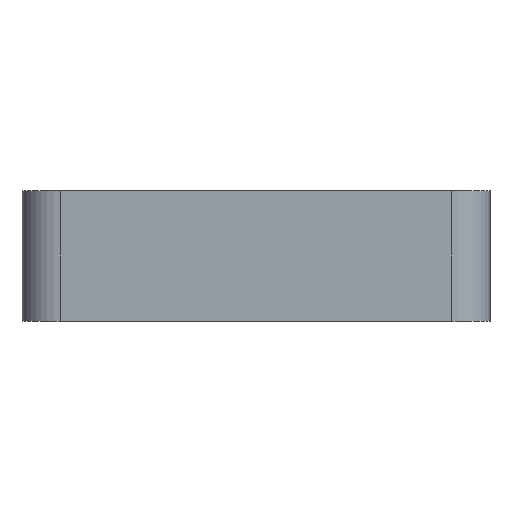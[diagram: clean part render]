
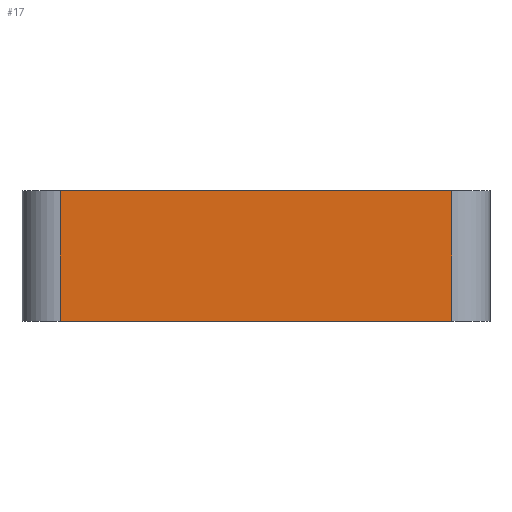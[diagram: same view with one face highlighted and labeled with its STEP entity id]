
A CAD part, left-side view. The second image highlights one B-rep face of the part: STEP entity #17.
In plain terms, the highlighted planar face has unit normal (-1, 0, 0).
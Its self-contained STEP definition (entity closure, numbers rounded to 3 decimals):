
#17 = ADVANCED_FACE('',(#18),#32,.F.);
#18 = FACE_BOUND('',#19,.F.);
#19 = EDGE_LOOP('',(#20,#55,#83,#111));
#20 = ORIENTED_EDGE('',*,*,#21,.F.);
#21 = EDGE_CURVE('',#22,#24,#26,.T.);
#22 = VERTEX_POINT('',#23);
#23 = CARTESIAN_POINT('',(-37.105,-40.95,27.4));
#24 = VERTEX_POINT('',#25);
#25 = CARTESIAN_POINT('',(-37.105,40.95,27.4));
#26 = SURFACE_CURVE('',#27,(#31,#43),.PCURVE_S1.);
#27 = LINE('',#28,#29);
#28 = CARTESIAN_POINT('',(-37.105,-48.95,27.4));
#29 = VECTOR('',#30,1.);
#30 = DIRECTION('',(0.,1.,0.));
#31 = PCURVE('',#32,#37);
#32 = PLANE('',#33);
#33 = AXIS2_PLACEMENT_3D('',#34,#35,#36);
#34 = CARTESIAN_POINT('',(-37.105,-48.95,0.));
#35 = DIRECTION('',(1.,0.,0.));
#36 = DIRECTION('',(0.,0.,1.));
#37 = DEFINITIONAL_REPRESENTATION('',(#38),#42);
#38 = LINE('',#39,#40);
#39 = CARTESIAN_POINT('',(27.4,0.));
#40 = VECTOR('',#41,1.);
#41 = DIRECTION('',(0.,-1.));
#42 = ( GEOMETRIC_REPRESENTATION_CONTEXT(2) 
PARAMETRIC_REPRESENTATION_CONTEXT() REPRESENTATION_CONTEXT('2D SPACE',''
  ) );
#43 = PCURVE('',#44,#49);
#44 = PLANE('',#45);
#45 = AXIS2_PLACEMENT_3D('',#46,#47,#48);
#46 = CARTESIAN_POINT('',(-37.105,-48.95,27.4));
#47 = DIRECTION('',(0.,0.,1.));
#48 = DIRECTION('',(1.,0.,0.));
#49 = DEFINITIONAL_REPRESENTATION('',(#50),#54);
#50 = LINE('',#51,#52);
#51 = CARTESIAN_POINT('',(0.,0.));
#52 = VECTOR('',#53,1.);
#53 = DIRECTION('',(0.,1.));
#54 = ( GEOMETRIC_REPRESENTATION_CONTEXT(2) 
PARAMETRIC_REPRESENTATION_CONTEXT() REPRESENTATION_CONTEXT('2D SPACE',''
  ) );
#55 = ORIENTED_EDGE('',*,*,#56,.F.);
#56 = EDGE_CURVE('',#57,#22,#59,.T.);
#57 = VERTEX_POINT('',#58);
#58 = CARTESIAN_POINT('',(-37.105,-40.95,0.));
#59 = SURFACE_CURVE('',#60,(#64,#71),.PCURVE_S1.);
#60 = LINE('',#61,#62);
#61 = CARTESIAN_POINT('',(-37.105,-40.95,0.));
#62 = VECTOR('',#63,1.);
#63 = DIRECTION('',(0.,0.,1.));
#64 = PCURVE('',#32,#65);
#65 = DEFINITIONAL_REPRESENTATION('',(#66),#70);
#66 = LINE('',#67,#68);
#67 = CARTESIAN_POINT('',(0.,-8.));
#68 = VECTOR('',#69,1.);
#69 = DIRECTION('',(1.,0.));
#70 = ( GEOMETRIC_REPRESENTATION_CONTEXT(2) 
PARAMETRIC_REPRESENTATION_CONTEXT() REPRESENTATION_CONTEXT('2D SPACE',''
  ) );
#71 = PCURVE('',#72,#77);
#72 = CYLINDRICAL_SURFACE('',#73,8.);
#73 = AXIS2_PLACEMENT_3D('',#74,#75,#76);
#74 = CARTESIAN_POINT('',(-29.105,-40.95,0.));
#75 = DIRECTION('',(0.,0.,1.));
#76 = DIRECTION('',(-1.,-0.,0.));
#77 = DEFINITIONAL_REPRESENTATION('',(#78),#82);
#78 = LINE('',#79,#80);
#79 = CARTESIAN_POINT('',(0.,0.));
#80 = VECTOR('',#81,1.);
#81 = DIRECTION('',(0.,1.));
#82 = ( GEOMETRIC_REPRESENTATION_CONTEXT(2) 
PARAMETRIC_REPRESENTATION_CONTEXT() REPRESENTATION_CONTEXT('2D SPACE',''
  ) );
#83 = ORIENTED_EDGE('',*,*,#84,.T.);
#84 = EDGE_CURVE('',#57,#85,#87,.T.);
#85 = VERTEX_POINT('',#86);
#86 = CARTESIAN_POINT('',(-37.105,40.95,0.));
#87 = SURFACE_CURVE('',#88,(#92,#99),.PCURVE_S1.);
#88 = LINE('',#89,#90);
#89 = CARTESIAN_POINT('',(-37.105,-48.95,0.));
#90 = VECTOR('',#91,1.);
#91 = DIRECTION('',(0.,1.,0.));
#92 = PCURVE('',#32,#93);
#93 = DEFINITIONAL_REPRESENTATION('',(#94),#98);
#94 = LINE('',#95,#96);
#95 = CARTESIAN_POINT('',(0.,0.));
#96 = VECTOR('',#97,1.);
#97 = DIRECTION('',(0.,-1.));
#98 = ( GEOMETRIC_REPRESENTATION_CONTEXT(2) 
PARAMETRIC_REPRESENTATION_CONTEXT() REPRESENTATION_CONTEXT('2D SPACE',''
  ) );
#99 = PCURVE('',#100,#105);
#100 = PLANE('',#101);
#101 = AXIS2_PLACEMENT_3D('',#102,#103,#104);
#102 = CARTESIAN_POINT('',(-37.105,-48.95,0.));
#103 = DIRECTION('',(0.,0.,1.));
#104 = DIRECTION('',(1.,0.,0.));
#105 = DEFINITIONAL_REPRESENTATION('',(#106),#110);
#106 = LINE('',#107,#108);
#107 = CARTESIAN_POINT('',(0.,0.));
#108 = VECTOR('',#109,1.);
#109 = DIRECTION('',(0.,1.));
#110 = ( GEOMETRIC_REPRESENTATION_CONTEXT(2) 
PARAMETRIC_REPRESENTATION_CONTEXT() REPRESENTATION_CONTEXT('2D SPACE',''
  ) );
#111 = ORIENTED_EDGE('',*,*,#112,.T.);
#112 = EDGE_CURVE('',#85,#24,#113,.T.);
#113 = SURFACE_CURVE('',#114,(#118,#125),.PCURVE_S1.);
#114 = LINE('',#115,#116);
#115 = CARTESIAN_POINT('',(-37.105,40.95,0.));
#116 = VECTOR('',#117,1.);
#117 = DIRECTION('',(0.,0.,1.));
#118 = PCURVE('',#32,#119);
#119 = DEFINITIONAL_REPRESENTATION('',(#120),#124);
#120 = LINE('',#121,#122);
#121 = CARTESIAN_POINT('',(0.,-89.9));
#122 = VECTOR('',#123,1.);
#123 = DIRECTION('',(1.,0.));
#124 = ( GEOMETRIC_REPRESENTATION_CONTEXT(2) 
PARAMETRIC_REPRESENTATION_CONTEXT() REPRESENTATION_CONTEXT('2D SPACE',''
  ) );
#125 = PCURVE('',#126,#131);
#126 = CYLINDRICAL_SURFACE('',#127,8.);
#127 = AXIS2_PLACEMENT_3D('',#128,#129,#130);
#128 = CARTESIAN_POINT('',(-29.105,40.95,0.));
#129 = DIRECTION('',(0.,0.,1.));
#130 = DIRECTION('',(-1.,-0.,0.));
#131 = DEFINITIONAL_REPRESENTATION('',(#132),#136);
#132 = LINE('',#133,#134);
#133 = CARTESIAN_POINT('',(-0.,0.));
#134 = VECTOR('',#135,1.);
#135 = DIRECTION('',(-0.,1.));
#136 = ( GEOMETRIC_REPRESENTATION_CONTEXT(2) 
PARAMETRIC_REPRESENTATION_CONTEXT() REPRESENTATION_CONTEXT('2D SPACE',''
  ) );
